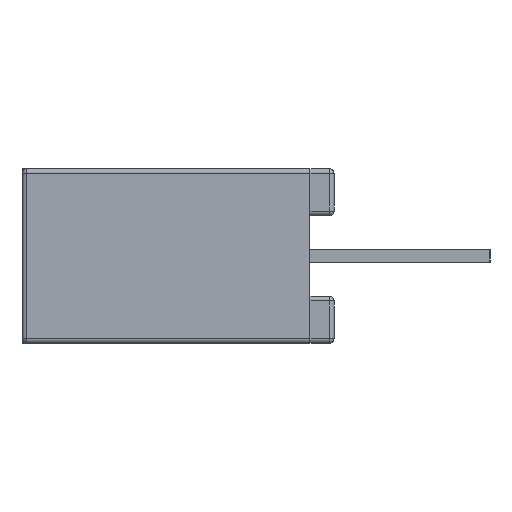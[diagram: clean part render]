
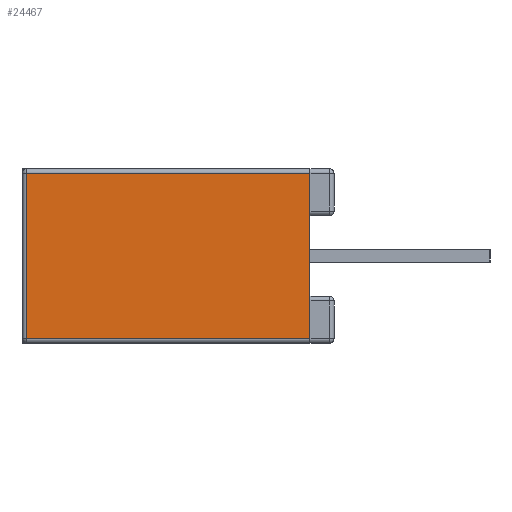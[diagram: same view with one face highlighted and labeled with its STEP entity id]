
A CAD part, left-side view. The second image highlights one B-rep face of the part: STEP entity #24467.
In plain terms, the highlighted planar face has unit normal (-1, 0, 0).
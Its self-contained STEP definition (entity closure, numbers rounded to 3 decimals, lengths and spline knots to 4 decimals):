
#2238 = CARTESIAN_POINT ( 'NONE',  ( -10., 5.992, 1.75 ) ) ;
#2239 = DIRECTION ( 'NONE',  ( 0., 1., 0. ) ) ;
#2240 = VECTOR ( 'NONE', #2239, 1000. ) ;
#2241 = CARTESIAN_POINT ( 'NONE',  ( -10., 6.092, 1.75 ) ) ;
#2242 = LINE ( 'NONE', #2241, #2240 ) ;
#2243 = DIRECTION ( 'NONE',  ( 0., 0., 1. ) ) ;
#2244 = DIRECTION ( 'NONE',  ( -1., 0., 0. ) ) ;
#2245 = CARTESIAN_POINT ( 'NONE',  ( -10., 0., -1.85 ) ) ;
#2246 = AXIS2_PLACEMENT_3D ( 'NONE', #2245, #2244, #2243 ) ;
#2247 = PLANE ( 'NONE',  #2246 ) ;
#2248 = FACE_OUTER_BOUND ( 'NONE', #24471, .T. ) ;
#2270 = CARTESIAN_POINT ( 'NONE',  ( -10., 0., -1.75 ) ) ;
#2271 = DIRECTION ( 'NONE',  ( 0., 0., 1. ) ) ;
#2272 = VECTOR ( 'NONE', #2271, 1000. ) ;
#2273 = CARTESIAN_POINT ( 'NONE',  ( -10., 0., -1.85 ) ) ;
#2274 = LINE ( 'NONE', #2273, #2272 ) ;
#2275 = CARTESIAN_POINT ( 'NONE',  ( -10., 0., 1.75 ) ) ;
#2327 = DIRECTION ( 'NONE',  ( 0., -1., 0. ) ) ;
#2328 = VECTOR ( 'NONE', #2327, 1000. ) ;
#2329 = CARTESIAN_POINT ( 'NONE',  ( -10., 0., -1.75 ) ) ;
#2330 = LINE ( 'NONE', #2329, #2328 ) ;
#2331 = CARTESIAN_POINT ( 'NONE',  ( -10., 5.992, -1.75 ) ) ;
#2332 = DIRECTION ( 'NONE',  ( 0., 0., -1. ) ) ;
#2333 = VECTOR ( 'NONE', #2332, 1000. ) ;
#2334 = CARTESIAN_POINT ( 'NONE',  ( -10., 5.992, -1.85 ) ) ;
#2335 = LINE ( 'NONE', #2334, #2333 ) ;
#24467 = ADVANCED_FACE ( 'NONE', ( #2248 ), #2247, .T. ) ;
#24471 = EDGE_LOOP ( 'NONE', ( #24473, #24475, #24478, #24574 ) ) ;
#24473 = ORIENTED_EDGE ( 'NONE', *, *, #24510, .T. ) ;
#24475 = ORIENTED_EDGE ( 'NONE', *, *, #24476, .T. ) ;
#24476 = EDGE_CURVE ( 'NONE', #24508, #24477, #2242, .T. ) ;
#24477 = VERTEX_POINT ( 'NONE', #2238 ) ;
#24478 = ORIENTED_EDGE ( 'NONE', *, *, #24571, .T. ) ;
#24508 = VERTEX_POINT ( 'NONE', #2275 ) ;
#24510 = EDGE_CURVE ( 'NONE', #24511, #24508, #2274, .T. ) ;
#24511 = VERTEX_POINT ( 'NONE', #2270 ) ;
#24571 = EDGE_CURVE ( 'NONE', #24477, #24573, #2335, .T. ) ;
#24573 = VERTEX_POINT ( 'NONE', #2331 ) ;
#24574 = ORIENTED_EDGE ( 'NONE', *, *, #24575, .T. ) ;
#24575 = EDGE_CURVE ( 'NONE', #24573, #24511, #2330, .T. ) ;
